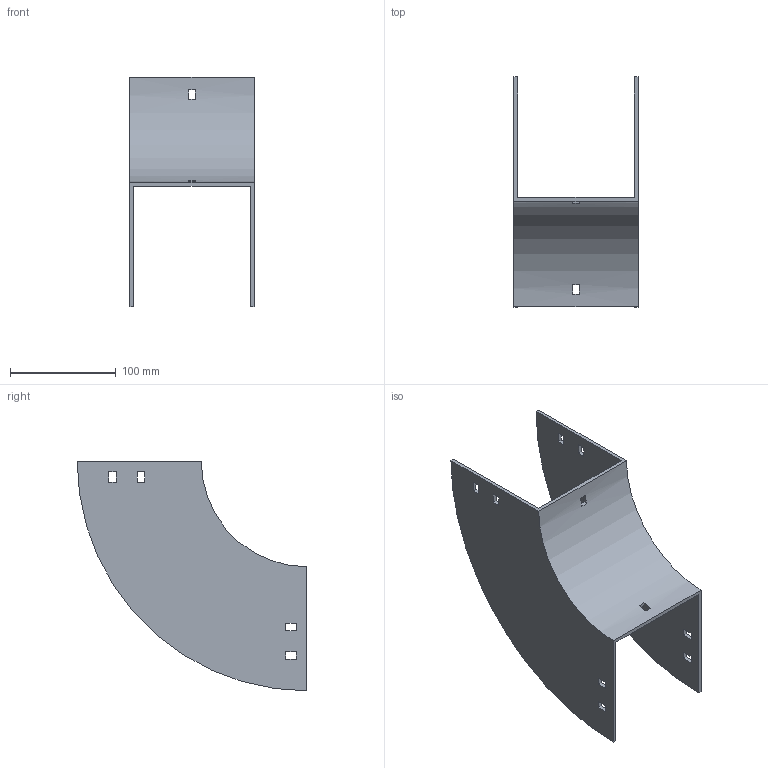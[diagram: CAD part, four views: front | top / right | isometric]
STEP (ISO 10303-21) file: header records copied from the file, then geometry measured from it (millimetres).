
FILE_DESCRIPTION (( 'STEP AP214' ), '1' );
FILE_NAME ('33B1H117.step', '2025-02-21T09:30:52', ( '' ), ( '' ), 'SwSTEP 2.0', 'SolidWorks 2023', '' );
FILE_SCHEMA (( 'AUTOMOTIVE_DESIGN' ));
Length unit declared in the file: millimetre
Products named in the file (1): 33B1H117
Bounding box: 117.5 x 217.5 x 217.5 mm (x, y, z)
Volume: 264540.4 mm3; surface area: 157128.8 mm2
Topology: 1 solids, 1 shells, 50 faces, 144 edges, 96 vertices
Faces by surface type: plane 46, cylinder 4
Entity records: 1687 total; most frequent: CARTESIAN_POINT 291, ORIENTED_EDGE 288, DIRECTION 262, EDGE_CURVE 144, LINE 128, VECTOR 128, VERTEX_POINT 96, EDGE_LOOP 70
